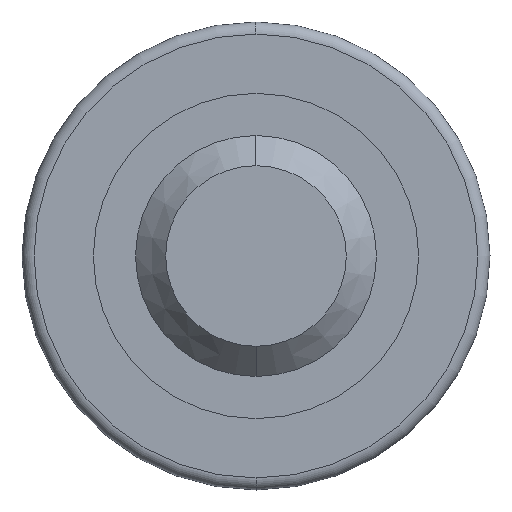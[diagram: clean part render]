
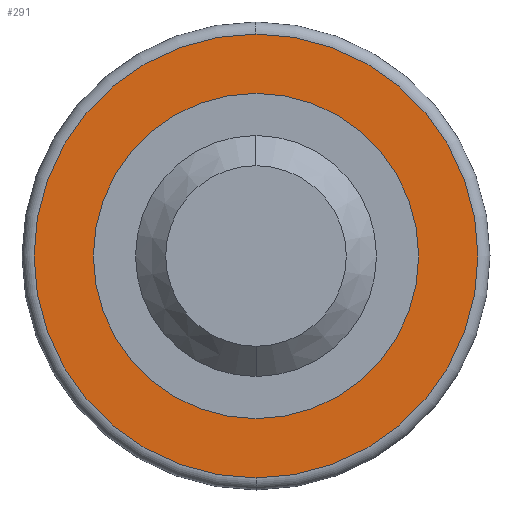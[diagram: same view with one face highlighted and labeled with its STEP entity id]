
A CAD part, left-side view. The second image highlights one B-rep face of the part: STEP entity #291.
In plain terms, the highlighted planar face has unit normal (-1, 0, 0).
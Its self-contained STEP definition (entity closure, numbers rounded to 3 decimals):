
#20 = ORIENTED_EDGE ( 'NONE', *, *, #705, .T. ) ;
#39 = EDGE_CURVE ( 'NONE', #686, #68, #467, .T. ) ;
#56 = EDGE_CURVE ( 'NONE', #186, #330, #206, .T. ) ;
#65 = ORIENTED_EDGE ( 'NONE', *, *, #56, .T. ) ;
#68 = VERTEX_POINT ( 'NONE', #260 ) ;
#92 = ORIENTED_EDGE ( 'NONE', *, *, #39, .F. ) ;
#110 = EDGE_LOOP ( 'NONE', ( #65, #20 ) ) ;
#118 = CIRCLE ( 'NONE', #119, 27. ) ;
#119 = AXIS2_PLACEMENT_3D ( 'NONE', #120, #121, #122 ) ;
#120 = CARTESIAN_POINT ( 'NONE',  ( 22., 0., 0. ) ) ;
#121 = DIRECTION ( 'NONE',  ( 1., 0., 0. ) ) ;
#122 = DIRECTION ( 'NONE',  ( 0., 0., -1. ) ) ;
#186 = VERTEX_POINT ( 'NONE', #282 ) ;
#206 = CIRCLE ( 'NONE', #207, 27. ) ;
#207 = AXIS2_PLACEMENT_3D ( 'NONE', #208, #209, #210 ) ;
#208 = CARTESIAN_POINT ( 'NONE',  ( 22., 0., 0. ) ) ;
#209 = DIRECTION ( 'NONE',  ( 1., 0., 0. ) ) ;
#210 = DIRECTION ( 'NONE',  ( 0., 0., -1. ) ) ;
#260 = CARTESIAN_POINT ( 'NONE',  ( 22., 0., -36.85 ) ) ;
#282 = CARTESIAN_POINT ( 'NONE',  ( 22., 0., -27. ) ) ;
#291 = ADVANCED_FACE ( 'NONE', ( #361, #362 ), #363, .T. ) ;
#292 = ORIENTED_EDGE ( 'NONE', *, *, #682, .F. ) ;
#307 = CIRCLE ( 'NONE', #308, 36.85 ) ;
#308 = AXIS2_PLACEMENT_3D ( 'NONE', #313, #314, #315 ) ;
#313 = CARTESIAN_POINT ( 'NONE',  ( 22., 0., 0. ) ) ;
#314 = DIRECTION ( 'NONE',  ( 1., 0., 0. ) ) ;
#315 = DIRECTION ( 'NONE',  ( 0., 0., -1. ) ) ;
#330 = VERTEX_POINT ( 'NONE', #394 ) ;
#335 = CARTESIAN_POINT ( 'NONE',  ( 22., 0., 36.85 ) ) ;
#361 = FACE_BOUND ( 'NONE', #110, .T. ) ;
#362 = FACE_OUTER_BOUND ( 'NONE', #680, .T. ) ;
#363 = PLANE ( 'NONE',  #365 ) ;
#365 = AXIS2_PLACEMENT_3D ( 'NONE', #366, #367, #368 ) ;
#366 = CARTESIAN_POINT ( 'NONE',  ( 22., 27., 0. ) ) ;
#367 = DIRECTION ( 'NONE',  ( -1., 0., 0. ) ) ;
#368 = DIRECTION ( 'NONE',  ( 0., 0., 1. ) ) ;
#394 = CARTESIAN_POINT ( 'NONE',  ( 22., 0., 27. ) ) ;
#467 = CIRCLE ( 'NONE', #471, 36.85 ) ;
#471 = AXIS2_PLACEMENT_3D ( 'NONE', #472, #473, #474 ) ;
#472 = CARTESIAN_POINT ( 'NONE',  ( 22., 0., 0. ) ) ;
#473 = DIRECTION ( 'NONE',  ( 1., 0., 0. ) ) ;
#474 = DIRECTION ( 'NONE',  ( 0., 0., -1. ) ) ;
#680 = EDGE_LOOP ( 'NONE', ( #292, #92 ) ) ;
#682 = EDGE_CURVE ( 'NONE', #68, #686, #307, .T. ) ;
#686 = VERTEX_POINT ( 'NONE', #335 ) ;
#705 = EDGE_CURVE ( 'NONE', #330, #186, #118, .T. ) ;
